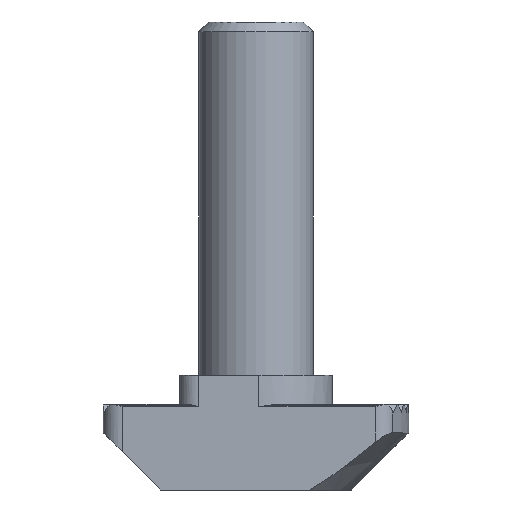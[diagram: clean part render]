
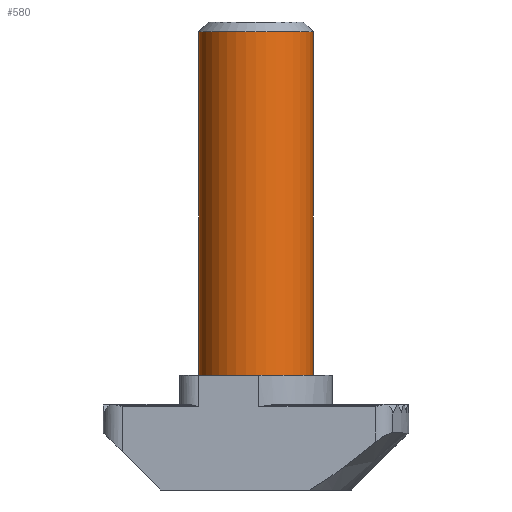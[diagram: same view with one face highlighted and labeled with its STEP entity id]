
A CAD part, front view. The second image highlights one B-rep face of the part: STEP entity #580.
In plain terms, the highlighted cylindrical face has radius 3 mm (diameter 6 mm), a partial arc.
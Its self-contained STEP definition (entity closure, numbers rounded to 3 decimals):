
#191 = CARTESIAN_POINT ( 'NONE',  ( 0., 0., 24. ) ) ;
#192 = DIRECTION ( 'NONE',  ( 0., 0., -1. ) ) ;
#193 = DIRECTION ( 'NONE',  ( -1., 0., 0. ) ) ;
#368 = AXIS2_PLACEMENT_3D ( 'NONE', #191, #192, #193 ) ;
#580 = ADVANCED_FACE ( 'NONE', ( #1911 ), #1907, .T. ) ;
#746 = EDGE_CURVE ( 'NONE', #1899, #1900, #2024, .T. ) ;
#795 = EDGE_CURVE ( 'NONE', #1891, #1899, #2146, .T. ) ;
#958 = ORIENTED_EDGE ( 'NONE', *, *, #746, .T. ) ;
#959 = ORIENTED_EDGE ( 'NONE', *, *, #795, .T. ) ;
#960 = ORIENTED_EDGE ( 'NONE', *, *, #2824, .T. ) ;
#961 = ORIENTED_EDGE ( 'NONE', *, *, #1017, .F. ) ;
#1017 = EDGE_CURVE ( 'NONE', #1902, #1900, #2178, .T. ) ;
#1376 = CARTESIAN_POINT ( 'NONE',  ( -3., 0., -0.769 ) ) ;
#1381 = DIRECTION ( 'NONE',  ( 0., 0., -1. ) ) ;
#1449 = CARTESIAN_POINT ( 'NONE',  ( 3., 0., -0.769 ) ) ;
#1455 = DIRECTION ( 'NONE',  ( 0., 0., -1. ) ) ;
#1655 = EDGE_LOOP ( 'NONE', ( #961, #960, #959, #958 ) ) ;
#1771 = DIRECTION ( 'NONE',  ( 0., 0., -1. ) ) ;
#1773 = DIRECTION ( 'NONE',  ( -1., 0., 0. ) ) ;
#1891 = VERTEX_POINT ( 'NONE', #2866 ) ;
#1899 = VERTEX_POINT ( 'NONE', #2874 ) ;
#1900 = VERTEX_POINT ( 'NONE', #2875 ) ;
#1902 = VERTEX_POINT ( 'NONE', #2877 ) ;
#1907 = CYLINDRICAL_SURFACE ( 'NONE', #2852, 3. ) ;
#1911 = FACE_OUTER_BOUND ( 'NONE', #1655, .T. ) ;
#2024 = CIRCLE ( 'NONE', #2225, 3. ) ;
#2146 = LINE ( 'NONE', #1376, #2149 ) ;
#2149 = VECTOR ( 'NONE', #1381, 1000. ) ;
#2165 = CARTESIAN_POINT ( 'NONE',  ( 0., 0., -0.769 ) ) ;
#2178 = LINE ( 'NONE', #1449, #2180 ) ;
#2180 = VECTOR ( 'NONE', #1455, 1000. ) ;
#2225 = AXIS2_PLACEMENT_3D ( 'NONE', #2611, #2600, #2587 ) ;
#2320 = CIRCLE ( 'NONE', #368, 3. ) ;
#2587 = DIRECTION ( 'NONE',  ( -1., 0., 0. ) ) ;
#2600 = DIRECTION ( 'NONE',  ( 0., 0., 1. ) ) ;
#2611 = CARTESIAN_POINT ( 'NONE',  ( 0., 0., 6. ) ) ;
#2824 = EDGE_CURVE ( 'NONE', #1902, #1891, #2320, .T. ) ;
#2852 = AXIS2_PLACEMENT_3D ( 'NONE', #2165, #1771, #1773 ) ;
#2866 = CARTESIAN_POINT ( 'NONE',  ( -3., 0., 24. ) ) ;
#2874 = CARTESIAN_POINT ( 'NONE',  ( -3., 0., 6. ) ) ;
#2875 = CARTESIAN_POINT ( 'NONE',  ( 3., 0., 6. ) ) ;
#2877 = CARTESIAN_POINT ( 'NONE',  ( 3., 0., 24. ) ) ;
